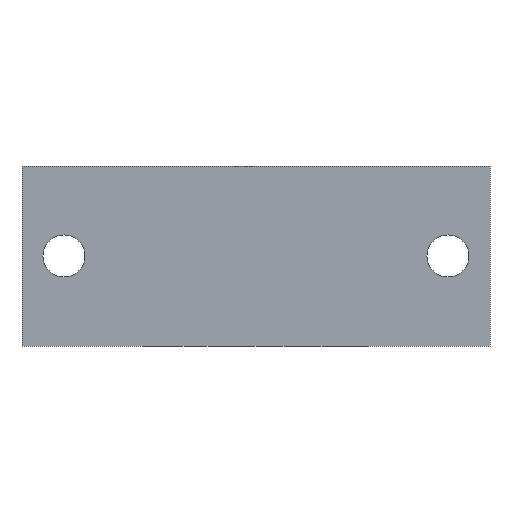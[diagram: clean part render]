
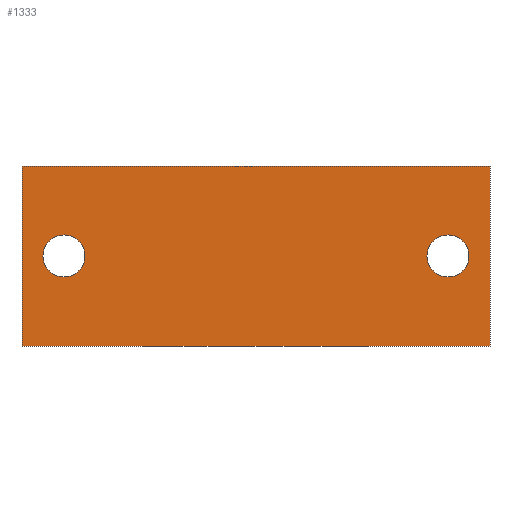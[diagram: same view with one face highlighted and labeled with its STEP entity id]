
A CAD part, front view. The second image highlights one B-rep face of the part: STEP entity #1333.
In plain terms, the highlighted planar face has unit normal (0, -1, 0).
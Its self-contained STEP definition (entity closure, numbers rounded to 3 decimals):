
#1181=CARTESIAN_POINT('',(39.,-21.6,15.));
#1182=VERTEX_POINT('',#1181);
#1189=CARTESIAN_POINT('',(39.,-21.6,-15.));
#1190=VERTEX_POINT('',#1189);
#1191=CARTESIAN_POINT('',(39.,-21.6,-15.));
#1192=DIRECTION('',(0.,0.,1.));
#1193=VECTOR('',#1192,30.);
#1194=LINE('',#1191,#1193);
#1195=EDGE_CURVE('',#1190,#1182,#1194,.T.);
#1213=CARTESIAN_POINT('',(-39.,-21.6,15.));
#1214=VERTEX_POINT('',#1213);
#1221=CARTESIAN_POINT('',(39.,-21.6,15.));
#1222=DIRECTION('',(-1.,0.,0.));
#1223=VECTOR('',#1222,78.);
#1224=LINE('',#1221,#1223);
#1225=EDGE_CURVE('',#1182,#1214,#1224,.T.);
#1238=CARTESIAN_POINT('',(-39.,-21.6,-15.));
#1239=VERTEX_POINT('',#1238);
#1246=CARTESIAN_POINT('',(-39.,-21.6,15.));
#1247=DIRECTION('',(0.,0.,-1.));
#1248=VECTOR('',#1247,30.);
#1249=LINE('',#1246,#1248);
#1250=EDGE_CURVE('',#1214,#1239,#1249,.T.);
#1271=CARTESIAN_POINT('',(-39.,-21.6,-15.));
#1272=DIRECTION('',(1.,0.,0.));
#1273=VECTOR('',#1272,78.);
#1274=LINE('',#1271,#1273);
#1275=EDGE_CURVE('',#1239,#1190,#1274,.T.);
#1282=CARTESIAN_POINT('',(39.,-21.6,15.));
#1283=DIRECTION('',(0.,-1.,0.));
#1284=DIRECTION('',(0.,0.,-1.));
#1285=AXIS2_PLACEMENT_3D('',#1282,#1283,#1284);
#1286=PLANE('',#1285);
#1287=CARTESIAN_POINT('',(-32.,-21.6,-3.5));
#1288=VERTEX_POINT('',#1287);
#1289=CARTESIAN_POINT('',(-32.,-21.6,3.5));
#1290=VERTEX_POINT('',#1289);
#1291=CARTESIAN_POINT('',(-32.,-21.6,-0.));
#1292=DIRECTION('',(-0.,1.,-0.));
#1293=DIRECTION('',(0.,0.,-1.));
#1294=AXIS2_PLACEMENT_3D('',#1291,#1292,#1293);
#1295=CIRCLE('',#1294,3.5);
#1296=EDGE_CURVE('',#1288,#1290,#1295,.T.);
#1297=ORIENTED_EDGE('',*,*,#1296,.T.);
#1298=CARTESIAN_POINT('',(-32.,-21.6,-0.));
#1299=DIRECTION('',(-0.,1.,-0.));
#1300=DIRECTION('',(0.,0.,-1.));
#1301=AXIS2_PLACEMENT_3D('',#1298,#1299,#1300);
#1302=CIRCLE('',#1301,3.5);
#1303=EDGE_CURVE('',#1290,#1288,#1302,.T.);
#1304=ORIENTED_EDGE('',*,*,#1303,.T.);
#1305=EDGE_LOOP('',(#1297,#1304));
#1306=FACE_BOUND('',#1305,.T.);
#1307=CARTESIAN_POINT('',(32.,-21.6,-3.5));
#1308=VERTEX_POINT('',#1307);
#1309=CARTESIAN_POINT('',(32.,-21.6,3.5));
#1310=VERTEX_POINT('',#1309);
#1311=CARTESIAN_POINT('',(32.,-21.6,-0.));
#1312=DIRECTION('',(-0.,1.,-0.));
#1313=DIRECTION('',(0.,0.,-1.));
#1314=AXIS2_PLACEMENT_3D('',#1311,#1312,#1313);
#1315=CIRCLE('',#1314,3.5);
#1316=EDGE_CURVE('',#1308,#1310,#1315,.T.);
#1317=ORIENTED_EDGE('',*,*,#1316,.T.);
#1318=CARTESIAN_POINT('',(32.,-21.6,-0.));
#1319=DIRECTION('',(-0.,1.,-0.));
#1320=DIRECTION('',(0.,0.,-1.));
#1321=AXIS2_PLACEMENT_3D('',#1318,#1319,#1320);
#1322=CIRCLE('',#1321,3.5);
#1323=EDGE_CURVE('',#1310,#1308,#1322,.T.);
#1324=ORIENTED_EDGE('',*,*,#1323,.T.);
#1325=EDGE_LOOP('',(#1317,#1324));
#1326=FACE_BOUND('',#1325,.T.);
#1327=ORIENTED_EDGE('',*,*,#1195,.T.);
#1328=ORIENTED_EDGE('',*,*,#1225,.T.);
#1329=ORIENTED_EDGE('',*,*,#1250,.T.);
#1330=ORIENTED_EDGE('',*,*,#1275,.T.);
#1331=EDGE_LOOP('',(#1327,#1328,#1329,#1330));
#1332=FACE_BOUND('',#1331,.T.);
#1333=ADVANCED_FACE('',(#1306,#1326,#1332),#1286,.T.);
